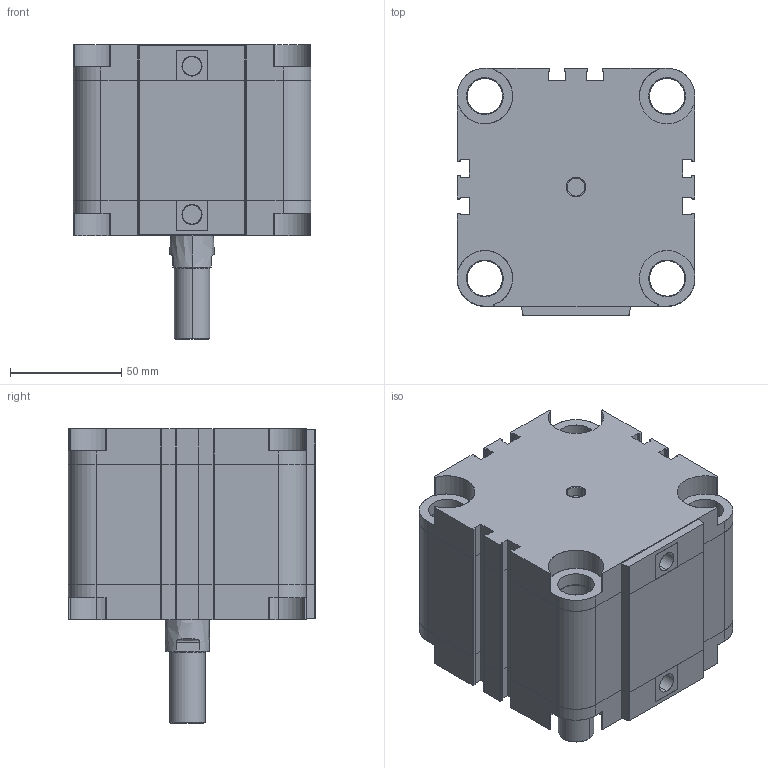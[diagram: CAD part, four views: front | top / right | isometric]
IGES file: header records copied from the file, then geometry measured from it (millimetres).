
Start section: SolidWorks IGES file using analytic representation for surfaces
Global section: file name: D:\ARICA 3D ÇÝZÝMLER\3D IGES\ADVU-S-A\ADVU-S-A 80\ADVU80X30-S-A-CYLINDER.IGS; native system: SolidWorks 2013; preprocessor: SolidWorks 2013; author: user; date: 150414.103511; units: millimetre
Bounding box: 107 x 111.2 x 132.5 mm (x, y, z)
Surface area: 159144.6 mm2 (no closed solid volume)
Topology: 0 solids, 0 shells, 534 faces, 8152 edges, 8152 vertices
Faces by surface type: revolution 287, bspline 247
